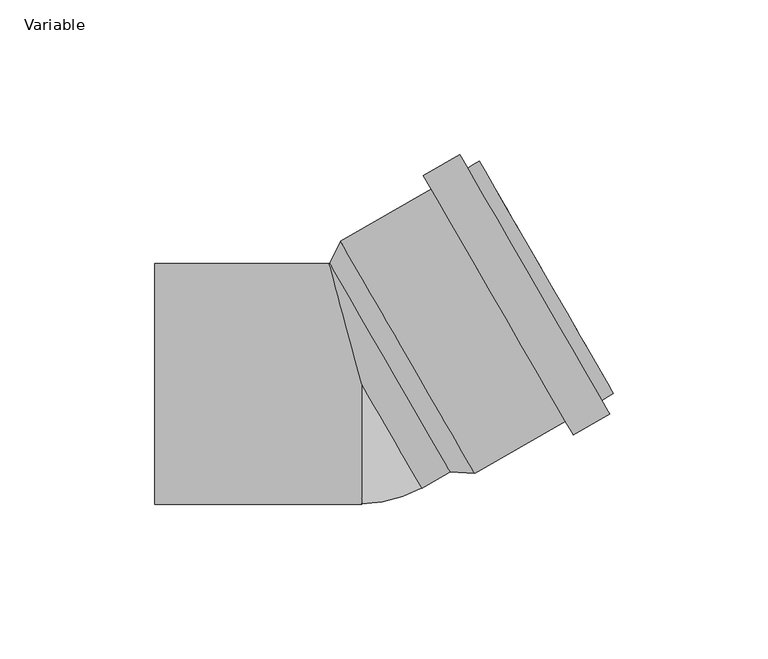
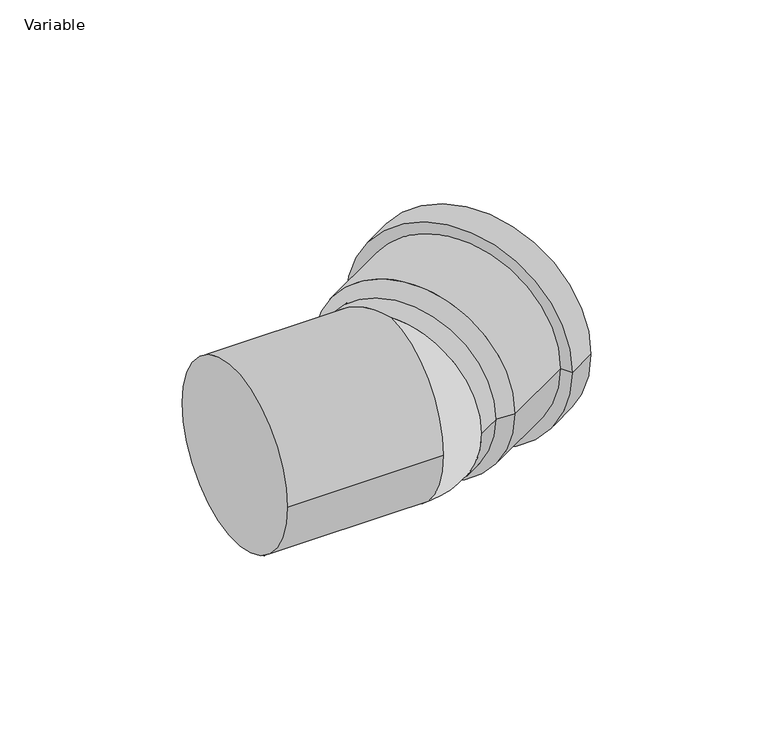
"""IFC4 building model written with IfcOpenShell, lengths in millimetres: pipe fitting geometry, AliaxisFR_Friaphon_ElbowMF_FR : Variable."""

from ifc_helpers import new_model, si_unit, point, frame, origin, place, context, project, spatial, polyline, circle_curve, ellipse_curve, trimmed, source, transform, mapped, element, save
from ifc_brep_helpers import plane_surface, cylinder_surface, revolved_surface, advanced_brep


def variable_931b8ba4(model_context):
    return source(origin(), model_context, "Body", "AdvancedBrep", [
        advanced_brep(
        [(81.4557529, -3.0855025, 0.0), (38.0557529, 72.0855025, 0.0), (40.2557529, 68.2749907, 0.0), (79.2557529, 0.7250093, 0.0), (68.4172956, -16.5022321, 0.0), (19.9172956, 67.5022321, 0.0), (31.6952411, 74.3022321, 0.0), (80.1952411, -9.7022321, 0.0), (65.8672956, -12.0855025, 0.0), (22.4672956, 63.0855025, 0.0), (36.5956369, -28.9855025, 0.0), (-6.8043631, 46.1855025, 0.0), (-10.3201307, 39.0749907, 0.0), (28.6798693, -28.4749907, 0.0), (77.6452411, -5.2855025, 0.0), (34.2452411, 69.8855025, 0.0)],
        [
            (0, 1, circle_curve(frame((59.7557529, 34.5, 0.0), z_axis=(0.866025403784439, 0.4999999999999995, 0.0), x_axis=(-0.4999999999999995, 0.866025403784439, 0.0)), 43.4)),
            (1, 2),
            (2, 3, circle_curve(frame((59.7557529, 34.5, 0.0), z_axis=(-0.866025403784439, -0.4999999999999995, 0.0), x_axis=(-0.4999999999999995, 0.866025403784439, 0.0)), 39.0)),
            (3, 0),
            (1, 0, circle_curve(frame((59.7557529, 34.5, 0.0), z_axis=(0.866025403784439, 0.4999999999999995, 0.0), x_axis=(-0.4999999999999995, 0.866025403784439, 0.0)), 43.4)),
            (3, 2, circle_curve(frame((59.7557529, 34.5, 0.0), z_axis=(-0.866025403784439, -0.4999999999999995, 0.0), x_axis=(-0.4999999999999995, 0.866025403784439, 0.0)), 39.0)),
            (4, 5, circle_curve(frame((44.1672956, 25.5, 0.0), z_axis=(0.866025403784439, 0.4999999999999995, 0.0), x_axis=(-0.4999999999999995, 0.866025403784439, 0.0)), 48.5)),
            (5, 6),
            (6, 7, circle_curve(frame((55.9452411, 32.3, 0.0), z_axis=(-0.866025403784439, -0.4999999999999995, 0.0), x_axis=(-0.4999999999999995, 0.866025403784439, 0.0)), 48.5)),
            (7, 4),
            (5, 4, circle_curve(frame((44.1672956, 25.5, 0.0), z_axis=(0.866025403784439, 0.4999999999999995, 0.0), x_axis=(-0.4999999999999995, 0.866025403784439, 0.0)), 48.5)),
            (7, 6, circle_curve(frame((55.9452411, 32.3, 0.0), z_axis=(-0.866025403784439, -0.4999999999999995, 0.0), x_axis=(-0.4999999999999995, 0.866025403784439, 0.0)), 48.5)),
            (8, 9, circle_curve(frame((44.1672956, 25.5, 0.0), z_axis=(0.866025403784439, 0.4999999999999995, 0.0), x_axis=(-0.4999999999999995, 0.866025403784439, 0.0)), 43.4)),
            (9, 5),
            (4, 8),
            (9, 8, circle_curve(frame((44.1672956, 25.5, 0.0), z_axis=(0.866025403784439, 0.4999999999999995, 0.0), x_axis=(-0.4999999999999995, 0.866025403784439, 0.0)), 43.4)),
            (10, 11, circle_curve(frame((14.8956369, 8.6, 0.0), z_axis=(0.866025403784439, 0.4999999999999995, 0.0), x_axis=(-0.4999999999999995, 0.866025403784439, 0.0)), 43.4)),
            (11, 9),
            (8, 10),
            (11, 10, circle_curve(frame((14.8956369, 8.6, 0.0), z_axis=(0.866025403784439, 0.4999999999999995, 0.0), x_axis=(-0.4999999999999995, 0.866025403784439, 0.0)), 43.4)),
            (2, 12),
            (12, 13, circle_curve(frame((9.1798693, 5.3, 0.0), z_axis=(-0.866025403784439, -0.4999999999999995, 0.0), x_axis=(-0.4999999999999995, 0.866025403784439, 0.0)), 39.0)),
            (13, 3),
            (13, 12, circle_curve(frame((9.1798693, 5.3, 0.0), z_axis=(-0.866025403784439, -0.4999999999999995, 0.0), x_axis=(-0.4999999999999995, 0.866025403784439, 0.0)), 39.0)),
            (12, 11),
            (10, 13),
            (14, 15, circle_curve(frame((55.9452411, 32.3, 0.0), z_axis=(0.866025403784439, 0.4999999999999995, 0.0), x_axis=(-0.4999999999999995, 0.866025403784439, 0.0)), 43.4)),
            (15, 1),
            (0, 14),
            (15, 14, circle_curve(frame((55.9452411, 32.3, 0.0), z_axis=(0.866025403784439, 0.4999999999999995, 0.0), x_axis=(-0.4999999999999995, 0.866025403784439, 0.0)), 43.4)),
            (6, 15),
            (14, 7),
        ],
        [
            plane_surface(frame((59.7557529, 34.5, 0.0), z_axis=(0.866025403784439, 0.4999999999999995, 0.0), x_axis=(-0.4999999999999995, 0.866025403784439, 0.0))),
            cylinder_surface(frame((9.1798693, 5.3, 0.0), z_axis=(-0.866025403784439, -0.4999999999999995, 0.0), x_axis=(-0.4999999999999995, 0.866025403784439, 0.0)), 48.5),
            plane_surface(frame((44.1672956, 25.5, 0.0), z_axis=(-0.866025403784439, -0.4999999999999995, 0.0), x_axis=(-0.4999999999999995, 0.866025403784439, 0.0))),
            cylinder_surface(frame((9.1798693, 5.3, 0.0), z_axis=(-0.866025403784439, -0.4999999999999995, 0.0), x_axis=(-0.4999999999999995, 0.866025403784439, 0.0)), 43.4),
            revolved_surface(polyline([(-10.320130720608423, 39.07499073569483, 0.0), (40.25575291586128, 68.27499076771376, 0.0)]), (9.1798693, 5.3, 0.0), (-0.866025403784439, -0.4999999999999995, 0.0)),
            revolved_surface(polyline([(-6.8043631, 46.1855025, 0.0), (-10.3201307, 39.0749907, 0.0)]), (9.1798693, 5.3, 0.0), (-0.866025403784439, -0.4999999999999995, 0.0)),
            plane_surface(frame((55.9452411, 32.3, 0.0), z_axis=(0.866025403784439, 0.4999999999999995, 0.0), x_axis=(-0.4999999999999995, 0.866025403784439, 0.0))),
        ],
        [
            (0, [[1, 2, 3, 4]]),
            (0, [[5, -4, 6, -2]]),
            (1, [[7, 8, 9, 10]]),
            (1, [[11, -10, 12, -8]]),
            (2, [[13, 14, -7, 15]]),
            (2, [[16, -15, -11, -14]]),
            (3, [[17, 18, -13, 19]]),
            (3, [[20, -19, -16, -18]]),
            (4, [[-3, 21, 22, 23]]),
            (4, [[-6, -23, 24, -21]]),
            (5, [[-22, 25, -17, 26]]),
            (5, [[-24, -26, -20, -25]]),
            (3, [[27, 28, -1, 29]]),
            (3, [[30, -29, -5, -28]]),
            (6, [[-9, 31, -27, 32]]),
            (6, [[-12, -32, -30, -31]]),
        ],
    ),
        advanced_brep(
        [(-6.5096189, 41.2749907, 0.0), (32.4903811, -26.2749907, 0.0), (19.5, -33.7749907, 0.0), (-10.4500185, 39.0, 0.0), (0.0, 0.0, 39.0), (0.0, 0.0, -39.0), (-67.0, -39.0, 0.0), (-67.0, 39.0, 0.0), (0.0, -39.0, 0.0)],
        [
            (0, 1, circle_curve(frame((12.9903811, 7.5, 0.0), z_axis=(0.8660254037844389, 0.4999999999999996, 0.0), x_axis=(-0.4999999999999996, 0.8660254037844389, 0.0)), 39.0)),
            (1, 0, circle_curve(frame((12.9903811, 7.5, 0.0), z_axis=(0.8660254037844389, 0.4999999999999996, 0.0), x_axis=(-0.4999999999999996, 0.8660254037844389, 0.0)), 39.0)),
            (2, 1),
            (0, 3),
            (3, 4, ellipse_curve(frame((0.0, 0.0, 0.0), z_axis=(0.9659258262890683, 0.2588190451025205, 0.0), x_axis=(0.25881904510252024, -0.9659258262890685, 0.0)), 40.375771, 39.0)),
            (4, 2, circle_curve(frame((0.0, 0.0, 0.0), z_axis=(0.8660254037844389, 0.4999999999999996, 0.0), x_axis=(-0.4999999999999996, 0.8660254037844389, 0.0)), 39.0)),
            (2, 5, circle_curve(frame((0.0, 0.0, 0.0), z_axis=(0.8660254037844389, 0.4999999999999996, 0.0), x_axis=(-0.4999999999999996, 0.8660254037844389, 0.0)), 39.0)),
            (5, 3, ellipse_curve(frame((0.0, 0.0, 0.0), z_axis=(0.9659258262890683, 0.2588190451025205, 0.0), x_axis=(0.25881904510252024, -0.9659258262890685, 0.0)), 40.375771, 39.0)),
            (6, 7, circle_curve(frame((-67.0, 0.0, 0.0), z_axis=(-1.0, 0.0, 0.0), x_axis=(0.0, 1.0, 0.0)), 39.0)),
            (7, 6, circle_curve(frame((-67.0, 0.0, 0.0), z_axis=(-1.0, 0.0, 0.0), x_axis=(0.0, 1.0, 0.0)), 39.0)),
            (6, 8),
            (8, 4, circle_curve(frame((0.0, 0.0, 0.0), z_axis=(-1.0, 0.0, 0.0), x_axis=(0.0, 1.0, 0.0)), 39.0)),
            (3, 7),
            (5, 8, circle_curve(frame((0.0, 0.0, 0.0), z_axis=(-1.0, 0.0, 0.0), x_axis=(0.0, 1.0, 0.0)), 39.0)),
        ],
        [
            plane_surface(frame((12.9903811, 7.5, 0.0), z_axis=(0.8660254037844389, 0.4999999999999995, 0.0), x_axis=(0.0, 0.0, 1.0))),
            cylinder_surface(frame((0.0, 0.0, 0.0), z_axis=(-0.8660254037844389, -0.4999999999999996, 0.0), x_axis=(-0.4999999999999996, 0.8660254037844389, 0.0)), 39.0),
            plane_surface(frame((-67.0, 0.0, 0.0), z_axis=(-1.0, 0.0, 0.0), x_axis=(0.0, 0.0, 1.0))),
            cylinder_surface(frame((-67.0, 0.0, 0.0), z_axis=(-1.0, 0.0, 0.0), x_axis=(0.0, 1.0, 0.0)), 39.0),
            revolved_surface(trimmed(ellipse_curve(frame((0.0, 0.0, 0.0), z_axis=(0.8660254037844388, 0.49999999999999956, 0.0), x_axis=(-0.49999999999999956, 0.8660254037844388, 0.0)), 39.0, 39.0), [point((0.0, 0.0, 39.0))], [point((0.0, 0.0, -39.0))], True, "CARTESIAN"), (0.0, 0.0, 39.0), (0.0, 0.0, -1.0)),
        ],
        [
            (0, [[1, 2]]),
            (1, [[3, -1, 4, 5, 6]]),
            (1, [[-2, -3, 7, 8, -4]]),
            (2, [[9, 10]]),
            (3, [[-9, 11, 12, -5, 13]]),
            (3, [[-10, -13, -8, 14, -11]]),
            (4, [[-12, -14, -7, -6]]),
        ],
    ),
    ])


if __name__ == "__main__":
    model = new_model("IFC4")
    model_context = context("Model", 3, world=origin())
    ifc_project = project(units=[si_unit("LENGTHUNIT", "METRE", prefix="MILLI")], contexts=[model_context])
    site = spatial("IfcSite", under=ifc_project)
    building = spatial("IfcBuilding", under=site)
    placement = place(None, origin())
    variable_shape = variable_931b8ba4(model_context)
    element("IfcPipeFitting", 1, ObjectType="AliaxisFR_Friaphon_ElbowMF_FR : Variable", at=placement, inside=building, context=model_context, shape_type="MappedRepresentation", body=[
        mapped(variable_shape, transform((0.0, 0.0, 0.0), x_axis=(1.0, 0.0, 0.0), y_axis=(0.0, 1.0, 0.0), z_axis=(0.0, 0.0, 1.0))),
    ])
    save(model, "model.ifc")
